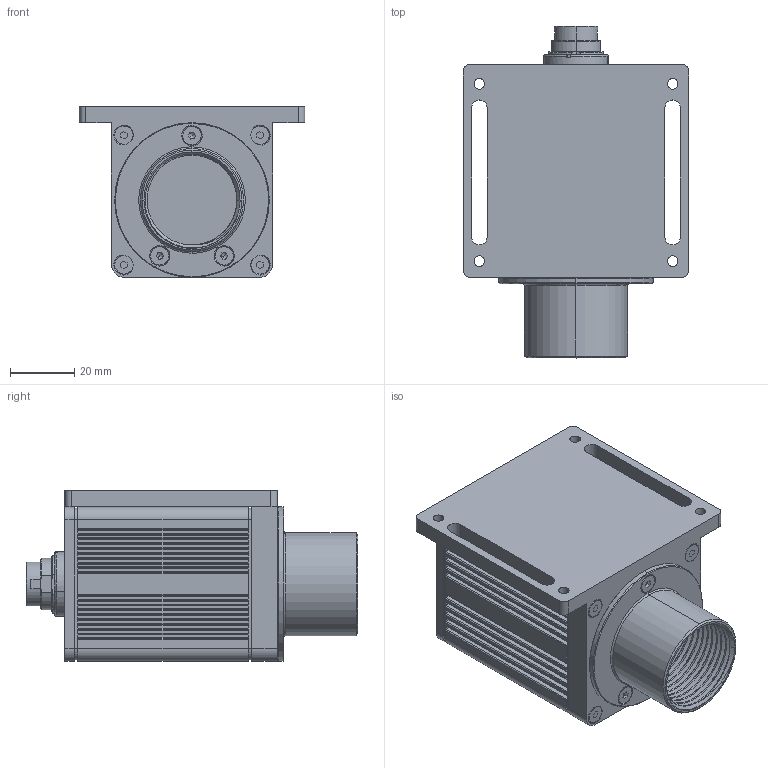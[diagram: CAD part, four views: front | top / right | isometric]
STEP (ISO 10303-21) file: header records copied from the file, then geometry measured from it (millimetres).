
FILE_DESCRIPTION (( 'STEP AP214' ), '1' );
FILE_NAME ('ILR_LSM4_Konstruktionsstudie1.STEP', '2021-11-29T16:31:10', ( '' ), ( '' ), 'SwSTEP 2.0', 'SolidWorks 2014', '' );
FILE_SCHEMA (( 'AUTOMOTIVE_DESIGN' ));
Length unit declared in the file: millimetre
Products named in the file (1): ILR_LSM4_Konstruktionsstudie1
Bounding box: 70 x 103 x 53 mm (x, y, z)
Surface area: 42448.5 mm2 (no closed solid volume)
Topology: 0 solids, 18 shells, 1084 faces, 2793 edges, 1750 vertices
Faces by surface type: plane 515, cylinder 344, bspline 120, cone 103, torus 2
Entity records: 50802 total; most frequent: CARTESIAN_POINT 13198, ORIENTED_EDGE 5418, DIRECTION 5341, EDGE_CURVE 2731, AXIS2_PLACEMENT_3D 1899, VERTEX_POINT 1750, LINE 1543, VECTOR 1543
